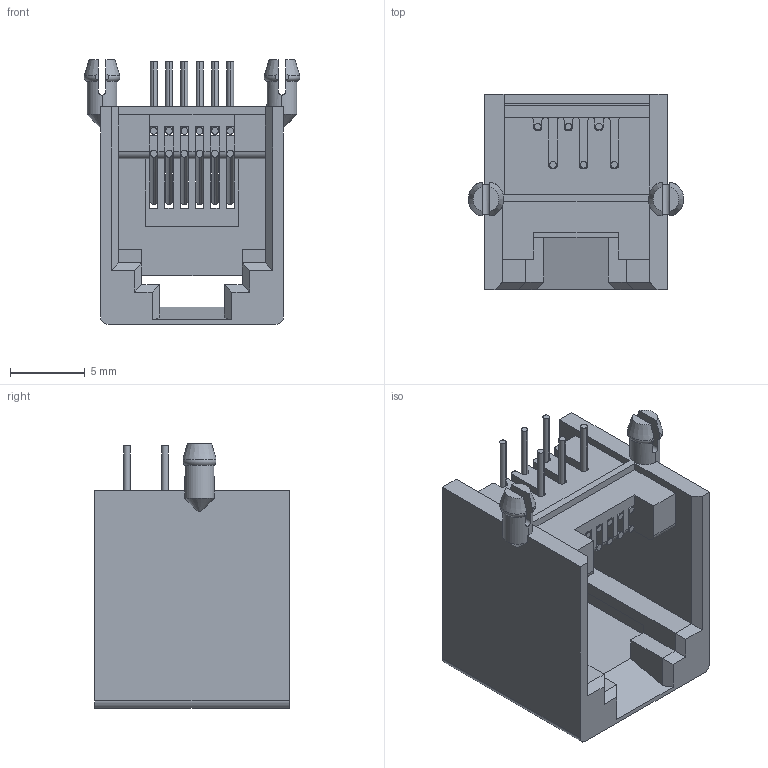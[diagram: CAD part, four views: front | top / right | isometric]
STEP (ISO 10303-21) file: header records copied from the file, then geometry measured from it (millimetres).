
FILE_DESCRIPTION((''),'2;1');
FILE_NAME('DGKYD55211166IWA1DY1017','2023-03-20T11:09:39',('Administrator'),(''),'CREO PARAMETRIC BY PTC INC, 2019010','CREO PARAMETRIC BY PTC INC, 2019010','');
FILE_SCHEMA(('CONFIG_CONTROL_DESIGN'));
Length unit declared in the file: millimetre
Products named in the file (1): DGKYD55211166IWA1DY1017
Bounding box: 14.39 x 13 x 17.65 mm (x, y, z)
Volume: 1000 mm3; surface area: 1983 mm2
Topology: 7 solids, 7 shells, 267 faces, 806 edges, 534 vertices
Faces by surface type: plane 164, cylinder 81, torus 16, cone 6
Entity records: 9501 total; most frequent: CARTESIAN_POINT 2218, ORIENTED_EDGE 1612, DIRECTION 1418, EDGE_CURVE 806, VERTEX_POINT 534, VECTOR 516, LINE 516, AXIS2_PLACEMENT_3D 451
